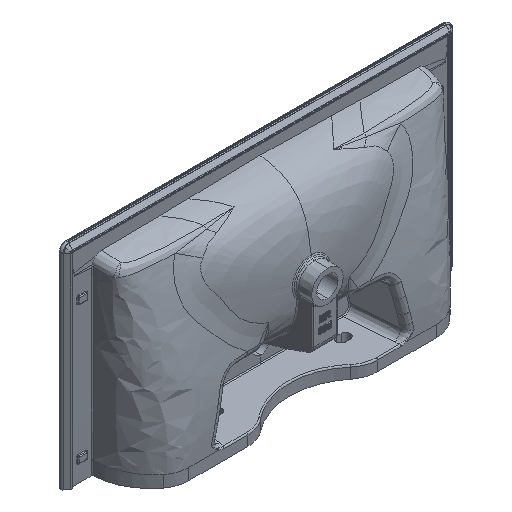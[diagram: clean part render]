
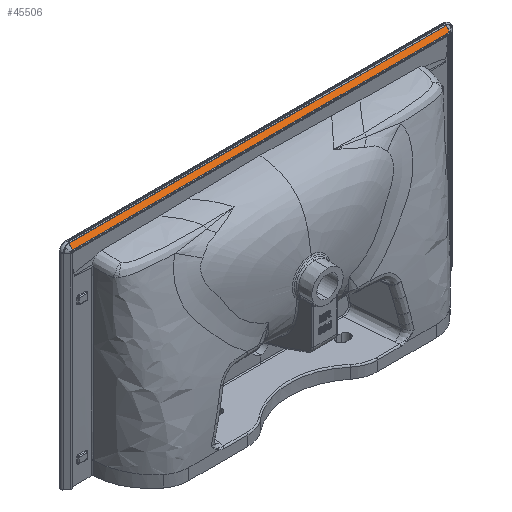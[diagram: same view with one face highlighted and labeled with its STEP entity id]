
A CAD part, isometric view. The second image highlights one B-rep face of the part: STEP entity #45506.
In plain terms, the highlighted planar face has unit normal (0, -0.797, 0.604).
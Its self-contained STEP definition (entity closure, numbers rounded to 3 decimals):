
#1373 = EDGE_CURVE ( 'NONE', #108894, #77193, #1523, .T. ) ;
#1523 = LINE ( 'NONE', #82445, #62601 ) ;
#3733 = DIRECTION ( 'NONE',  ( 0., 0.797, -0.604 ) ) ;
#4149 = LINE ( 'NONE', #31910, #39004 ) ;
#4919 = CARTESIAN_POINT ( 'NONE',  ( -409.945, -9.62, 458.104 ) ) ;
#10375 = LINE ( 'NONE', #62340, #113898 ) ;
#12605 = FACE_OUTER_BOUND ( 'NONE', #93383, .T. ) ;
#18567 = CARTESIAN_POINT ( 'NONE',  ( 409.945, -9.62, 458.104 ) ) ;
#22410 = DIRECTION ( 'NONE',  ( 0., -0.604, -0.797 ) ) ;
#26203 = VERTEX_POINT ( 'NONE', #18567 ) ;
#29047 = VERTEX_POINT ( 'NONE', #39997 ) ;
#29674 = EDGE_CURVE ( 'NONE', #26203, #65962, #10375, .T. ) ;
#31910 = CARTESIAN_POINT ( 'NONE',  ( -409.945, -13.172, 453.42 ) ) ;
#32731 = CARTESIAN_POINT ( 'NONE',  ( 409.945, -16.723, 448.736 ) ) ;
#37562 = DIRECTION ( 'NONE',  ( 1., 0., 0. ) ) ;
#39004 = VECTOR ( 'NONE', #59620, 1000. ) ;
#39997 = CARTESIAN_POINT ( 'NONE',  ( -409.945, -16.723, 448.736 ) ) ;
#40132 = CARTESIAN_POINT ( 'NONE',  ( 409.945, -13.172, 453.42 ) ) ;
#45214 = DIRECTION ( 'NONE',  ( -1., 0., 0. ) ) ;
#45506 = ADVANCED_FACE ( 'NONE', ( #12605 ), #74039, .F. ) ;
#52032 = EDGE_CURVE ( 'NONE', #65962, #29047, #4149, .T. ) ;
#52566 = CARTESIAN_POINT ( 'NONE',  ( 0., -16.723, 448.736 ) ) ;
#59620 = DIRECTION ( 'NONE',  ( 0., -0.604, -0.797 ) ) ;
#62340 = CARTESIAN_POINT ( 'NONE',  ( 0., -9.62, 458.104 ) ) ;
#62572 = ORIENTED_EDGE ( 'NONE', *, *, #29674, .T. ) ;
#62601 = VECTOR ( 'NONE', #37562, 1000. ) ;
#65962 = VERTEX_POINT ( 'NONE', #4919 ) ;
#66717 = LINE ( 'NONE', #40132, #77608 ) ;
#71788 = ORIENTED_EDGE ( 'NONE', *, *, #91803, .F. ) ;
#74039 = PLANE ( 'NONE',  #91606 ) ;
#77193 = VERTEX_POINT ( 'NONE', #32731 ) ;
#77608 = VECTOR ( 'NONE', #22410, 1000. ) ;
#82445 = CARTESIAN_POINT ( 'NONE',  ( 0., -16.723, 448.736 ) ) ;
#83306 = LINE ( 'NONE', #52566, #96668 ) ;
#84071 = DIRECTION ( 'NONE',  ( 0., 0.604, 0.797 ) ) ;
#87175 = ORIENTED_EDGE ( 'NONE', *, *, #1373, .T. ) ;
#90050 = CARTESIAN_POINT ( 'NONE',  ( 0., -16.723, 448.736 ) ) ;
#90950 = ORIENTED_EDGE ( 'NONE', *, *, #98200, .F. ) ;
#91606 = AXIS2_PLACEMENT_3D ( 'NONE', #92925, #3733, #84071 ) ;
#91803 = EDGE_CURVE ( 'NONE', #108894, #29047, #83306, .T. ) ;
#92925 = CARTESIAN_POINT ( 'NONE',  ( 0., -9.62, 458.104 ) ) ;
#93383 = EDGE_LOOP ( 'NONE', ( #71788, #87175, #90950, #62572, #97742 ) ) ;
#96668 = VECTOR ( 'NONE', #110285, 1000. ) ;
#97742 = ORIENTED_EDGE ( 'NONE', *, *, #52032, .T. ) ;
#98200 = EDGE_CURVE ( 'NONE', #26203, #77193, #66717, .T. ) ;
#108894 = VERTEX_POINT ( 'NONE', #90050 ) ;
#110285 = DIRECTION ( 'NONE',  ( -1., 0., 0. ) ) ;
#113898 = VECTOR ( 'NONE', #45214, 1000. ) ;
